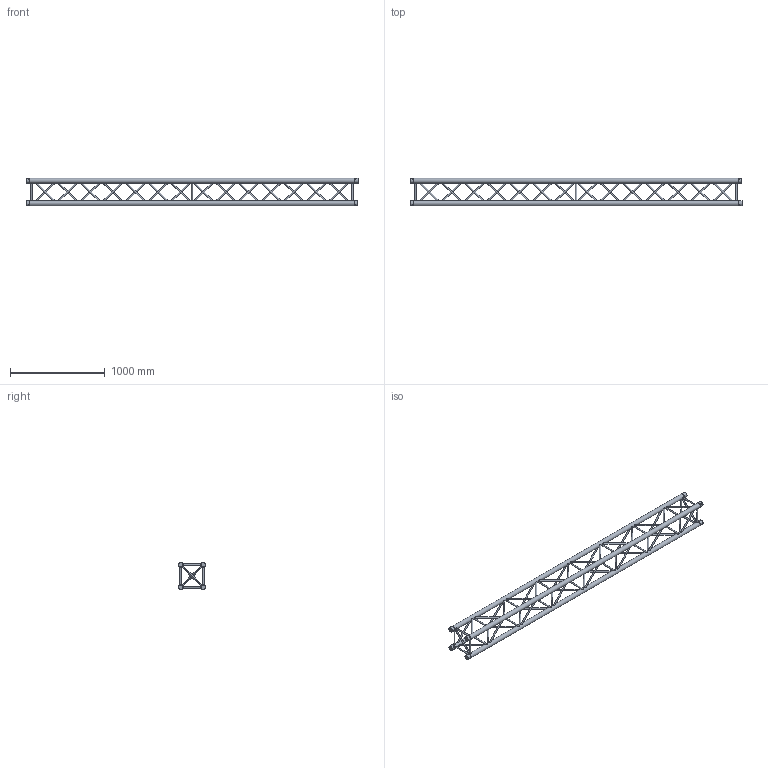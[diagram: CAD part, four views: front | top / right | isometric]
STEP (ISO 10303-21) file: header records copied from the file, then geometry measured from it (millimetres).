
FILE_DESCRIPTION(/* description */ (''),/* implementation_level */ '2;1');
FILE_NAME(/* name */ 'M:\Symbolen\STP\30-er truss\111080152.stp',/* time_stamp */ '2015-01-30T10:49:40+01:00',/* author */ ('Stephan'),/* organization */ (''),/* preprocessor_version */ 'ST-DEVELOPER v15.6',/* originating_system */ 'Autodesk Inventor 2015',/* authorisation */ '');
FILE_SCHEMA (('AUTOMOTIVE_DESIGN { 1 0 10303 214 3 1 1 }'));
Length unit declared in the file: millimetre
Products named in the file (1): 160023741
Bounding box: 3500 x 289.98 x 289.98 mm (x, y, z)
Volume: 25310252.3 mm3; surface area: 3207083.7 mm2
Topology: 7 solids, 71 shells, 394 faces, 630 edges, 372 vertices
Faces by surface type: plane 284, cylinder 102, cone 8
Full cylindrical faces by diameter (mm): 10 x8, 12 x3, 16 x67, 49.5 x8, 51 x4
Entity records: 10038 total; most frequent: CARTESIAN_POINT 1951, DIRECTION 1542, ORIENTED_EDGE 1296, AXIS2_PLACEMENT_3D 695, EDGE_LOOP 644, EDGE_CURVE 520, STYLED_ITEM 383, FACE_OUTER_BOUND 382
